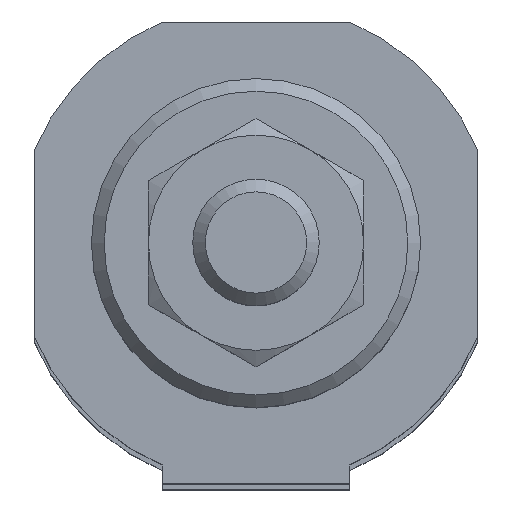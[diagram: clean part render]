
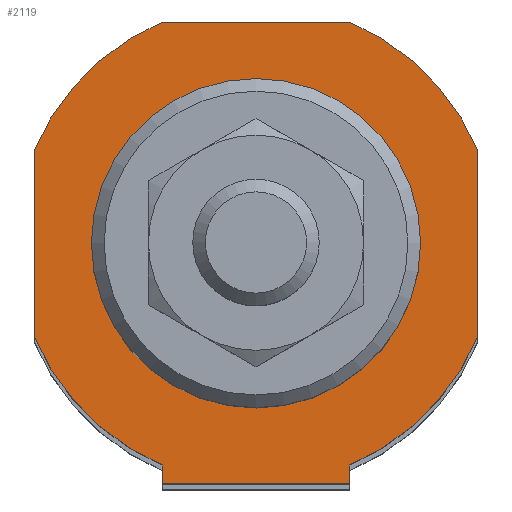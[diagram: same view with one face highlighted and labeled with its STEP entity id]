
A CAD part, top view. The second image highlights one B-rep face of the part: STEP entity #2119.
In plain terms, the highlighted planar face has unit normal (0, 0, 1).
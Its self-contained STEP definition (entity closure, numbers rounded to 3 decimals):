
#1123=CARTESIAN_POINT('',(7.399,-19.0,298.));
#1124=VERTEX_POINT('',#1123);
#1125=CARTESIAN_POINT('',(-7.399,-19.0,298.));
#1126=VERTEX_POINT('',#1125);
#1127=CARTESIAN_POINT('',(7.399,-19.0,298.));
#1128=DIRECTION('',(-1.0,0.0,0.0));
#1129=VECTOR('',#1128,14.799);
#1130=LINE('',#1127,#1129);
#1131=EDGE_CURVE('',#1124,#1126,#1130,.T.);
#1545=CARTESIAN_POINT('',(-7.399,-17.5,298.));
#1546=VERTEX_POINT('',#1545);
#1560=CARTESIAN_POINT('',(-7.399,-17.5,298.));
#1561=DIRECTION('',(0.0,-1.0,0.0));
#1562=VECTOR('',#1561,1.5);
#1563=LINE('',#1560,#1562);
#1564=EDGE_CURVE('',#1546,#1126,#1563,.T.);
#1576=CARTESIAN_POINT('',(7.399,-17.5,298.));
#1577=VERTEX_POINT('',#1576);
#1584=CARTESIAN_POINT('',(7.399,-17.5,298.));
#1585=DIRECTION('',(0.0,-1.0,0.0));
#1586=VECTOR('',#1585,1.5);
#1587=LINE('',#1584,#1586);
#1588=EDGE_CURVE('',#1577,#1124,#1587,.T.);
#1801=CARTESIAN_POINT('',(13.0,0.,298.));
#1802=VERTEX_POINT('',#1801);
#1803=CARTESIAN_POINT('',(0.,0.,298.));
#1804=DIRECTION('',(0.0,0.0,-1.0));
#1805=DIRECTION('',(-1.0,0.0,0.0));
#1806=AXIS2_PLACEMENT_3D('',#1803,#1804,#1805);
#1807=CIRCLE('',#1806,13.0);
#1808=EDGE_CURVE('',#1802,#1802,#1807,.T.);
#2013=CARTESIAN_POINT('',(-17.5,-7.399,298.));
#2014=VERTEX_POINT('',#2013);
#2015=CARTESIAN_POINT('',(-17.5,7.399,298.));
#2016=VERTEX_POINT('',#2015);
#2017=CARTESIAN_POINT('',(-17.5,-7.399,298.));
#2018=DIRECTION('',(0.0,1.0,0.0));
#2019=VECTOR('',#2018,14.799);
#2020=LINE('',#2017,#2019);
#2021=EDGE_CURVE('',#2014,#2016,#2020,.T.);
#2045=CARTESIAN_POINT('',(-7.399,17.5,298.));
#2046=VERTEX_POINT('',#2045);
#2047=CARTESIAN_POINT('',(0.0,0.0,298.));
#2048=DIRECTION('',(0.0,0.0,-1.0));
#2049=DIRECTION('',(-0.389,0.921,0.0));
#2050=AXIS2_PLACEMENT_3D('',#2047,#2048,#2049);
#2051=CIRCLE('',#2050,19.0);
#2052=EDGE_CURVE('',#2016,#2046,#2051,.T.);
#2065=CARTESIAN_POINT('',(-11.374,11.374,298.));
#2066=DIRECTION('',(0.0,0.0,1.0));
#2067=DIRECTION('',(1.0,0.0,0.0));
#2068=AXIS2_PLACEMENT_3D('',#2065,#2066,#2067);
#2069=PLANE('',#2068);
#2070=CARTESIAN_POINT('',(7.399,17.5,298.));
#2071=VERTEX_POINT('',#2070);
#2072=CARTESIAN_POINT('',(-7.399,17.5,298.));
#2073=DIRECTION('',(1.0,0.0,0.0));
#2074=VECTOR('',#2073,14.799);
#2075=LINE('',#2072,#2074);
#2076=EDGE_CURVE('',#2046,#2071,#2075,.T.);
#2077=ORIENTED_EDGE('',*,*,#2076,.F.);
#2078=ORIENTED_EDGE('',*,*,#2052,.F.);
#2079=ORIENTED_EDGE('',*,*,#2021,.F.);
#2080=CARTESIAN_POINT('',(0.0,0.0,298.));
#2081=DIRECTION('',(0.0,0.0,-1.0));
#2082=DIRECTION('',(-0.921,-0.389,0.0));
#2083=AXIS2_PLACEMENT_3D('',#2080,#2081,#2082);
#2084=CIRCLE('',#2083,19.0);
#2085=EDGE_CURVE('',#1546,#2014,#2084,.T.);
#2086=ORIENTED_EDGE('',*,*,#2085,.F.);
#2087=ORIENTED_EDGE('',*,*,#1564,.T.);
#2088=ORIENTED_EDGE('',*,*,#1131,.F.);
#2089=ORIENTED_EDGE('',*,*,#1588,.F.);
#2090=CARTESIAN_POINT('',(17.5,-7.399,298.));
#2091=VERTEX_POINT('',#2090);
#2092=CARTESIAN_POINT('',(0.0,0.0,298.));
#2093=DIRECTION('',(0.0,0.0,-1.0));
#2094=DIRECTION('',(0.389,-0.921,0.0));
#2095=AXIS2_PLACEMENT_3D('',#2092,#2093,#2094);
#2096=CIRCLE('',#2095,19.0);
#2097=EDGE_CURVE('',#2091,#1577,#2096,.T.);
#2098=ORIENTED_EDGE('',*,*,#2097,.F.);
#2099=CARTESIAN_POINT('',(17.5,7.399,298.));
#2100=VERTEX_POINT('',#2099);
#2101=CARTESIAN_POINT('',(17.5,7.399,298.));
#2102=DIRECTION('',(0.0,-1.0,0.0));
#2103=VECTOR('',#2102,14.799);
#2104=LINE('',#2101,#2103);
#2105=EDGE_CURVE('',#2100,#2091,#2104,.T.);
#2106=ORIENTED_EDGE('',*,*,#2105,.F.);
#2107=CARTESIAN_POINT('',(0.0,0.0,298.));
#2108=DIRECTION('',(0.0,0.0,-1.0));
#2109=DIRECTION('',(0.921,0.389,0.0));
#2110=AXIS2_PLACEMENT_3D('',#2107,#2108,#2109);
#2111=CIRCLE('',#2110,19.0);
#2112=EDGE_CURVE('',#2071,#2100,#2111,.T.);
#2113=ORIENTED_EDGE('',*,*,#2112,.F.);
#2114=EDGE_LOOP('',(#2077,#2078,#2079,#2086,#2087,#2088,#2089,#2098,#2106,#2113));
#2115=FACE_OUTER_BOUND('',#2114,.T.);
#2116=ORIENTED_EDGE('',*,*,#1808,.T.);
#2117=EDGE_LOOP('',(#2116));
#2118=FACE_BOUND('',#2117,.T.);
#2119=ADVANCED_FACE('',(#2115,#2118),#2069,.T.);
